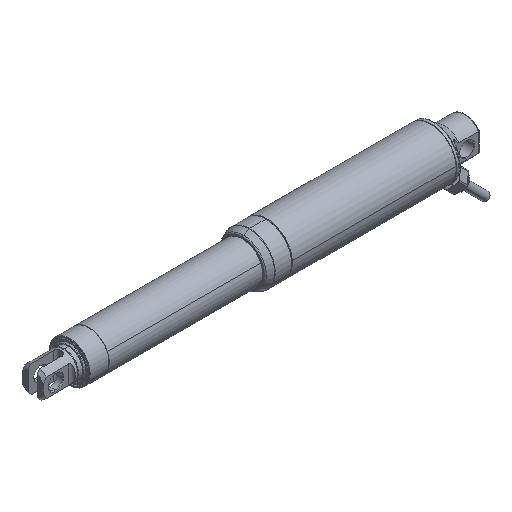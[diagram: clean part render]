
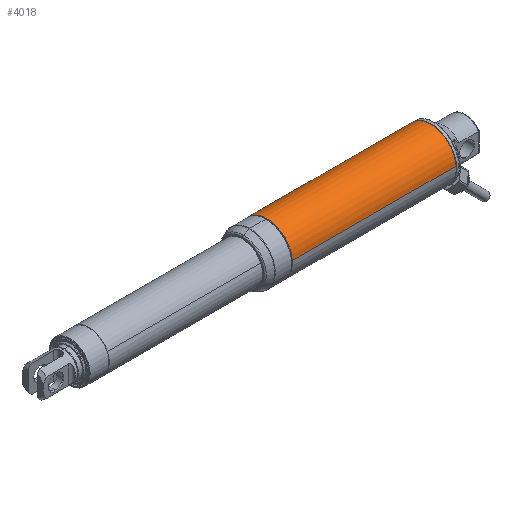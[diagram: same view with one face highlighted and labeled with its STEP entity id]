
A CAD part, isometric view. The second image highlights one B-rep face of the part: STEP entity #4018.
In plain terms, the highlighted cylindrical face has radius 18.1 mm (diameter 36.2 mm), a partial arc.
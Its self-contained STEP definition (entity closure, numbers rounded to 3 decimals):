
#37 = DIRECTION ( 'NONE',  ( -1., 0., 0. ) ) ;
#39 = ORIENTED_EDGE ( 'NONE', *, *, #1761, .T. ) ;
#301 = VERTEX_POINT ( 'NONE', #1750 ) ;
#365 = VERTEX_POINT ( 'NONE', #5514 ) ;
#512 = DIRECTION ( 'NONE',  ( 0., -0.997, 0.082 ) ) ;
#516 = DIRECTION ( 'NONE',  ( -1., 0., 0. ) ) ;
#522 = CARTESIAN_POINT ( 'NONE',  ( 69.9, 0., 0. ) ) ;
#675 = CYLINDRICAL_SURFACE ( 'NONE', #4755, 18.1 ) ;
#736 = CARTESIAN_POINT ( 'NONE',  ( -45.5, 18.039, -1.483 ) ) ;
#758 = CIRCLE ( 'NONE', #3549, 18.1 ) ;
#830 = VECTOR ( 'NONE', #4648, 1000. ) ;
#929 = DIRECTION ( 'NONE',  ( -1., 0., 0. ) ) ;
#934 = CARTESIAN_POINT ( 'NONE',  ( 70.2, 0., 0. ) ) ;
#943 = DIRECTION ( 'NONE',  ( 0., 0.997, -0.082 ) ) ;
#1709 = VERTEX_POINT ( 'NONE', #736 ) ;
#1750 = CARTESIAN_POINT ( 'NONE',  ( 69.9, -18.039, 1.483 ) ) ;
#1761 = EDGE_CURVE ( 'NONE', #301, #365, #2272, .T. ) ;
#1817 = LINE ( 'NONE', #4178, #2380 ) ;
#2272 = CIRCLE ( 'NONE', #5377, 18.1 ) ;
#2380 = VECTOR ( 'NONE', #37, 1000. ) ;
#2652 = ORIENTED_EDGE ( 'NONE', *, *, #4907, .T. ) ;
#3358 = ORIENTED_EDGE ( 'NONE', *, *, #5682, .T. ) ;
#3549 = AXIS2_PLACEMENT_3D ( 'NONE', #5863, #5007, #4505 ) ;
#3898 = EDGE_LOOP ( 'NONE', ( #3946, #39, #3358, #2652 ) ) ;
#3946 = ORIENTED_EDGE ( 'NONE', *, *, #4959, .F. ) ;
#4018 = ADVANCED_FACE ( 'NONE', ( #4930 ), #675, .T. ) ;
#4119 = CARTESIAN_POINT ( 'NONE',  ( -45.5, -18.039, 1.483 ) ) ;
#4178 = CARTESIAN_POINT ( 'NONE',  ( 70.2, 18.039, -1.483 ) ) ;
#4505 = DIRECTION ( 'NONE',  ( 0., -0.997, 0.082 ) ) ;
#4648 = DIRECTION ( 'NONE',  ( -1., 0., 0. ) ) ;
#4677 = CARTESIAN_POINT ( 'NONE',  ( 70.2, -18.039, 1.483 ) ) ;
#4755 = AXIS2_PLACEMENT_3D ( 'NONE', #934, #929, #943 ) ;
#4907 = EDGE_CURVE ( 'NONE', #1709, #5102, #758, .T. ) ;
#4930 = FACE_OUTER_BOUND ( 'NONE', #3898, .T. ) ;
#4959 = EDGE_CURVE ( 'NONE', #301, #5102, #5346, .T. ) ;
#5007 = DIRECTION ( 'NONE',  ( 1., 0., 0. ) ) ;
#5102 = VERTEX_POINT ( 'NONE', #4119 ) ;
#5346 = LINE ( 'NONE', #4677, #830 ) ;
#5377 = AXIS2_PLACEMENT_3D ( 'NONE', #522, #516, #512 ) ;
#5514 = CARTESIAN_POINT ( 'NONE',  ( 69.9, 18.039, -1.483 ) ) ;
#5682 = EDGE_CURVE ( 'NONE', #365, #1709, #1817, .T. ) ;
#5863 = CARTESIAN_POINT ( 'NONE',  ( -45.5, 0., 0. ) ) ;
